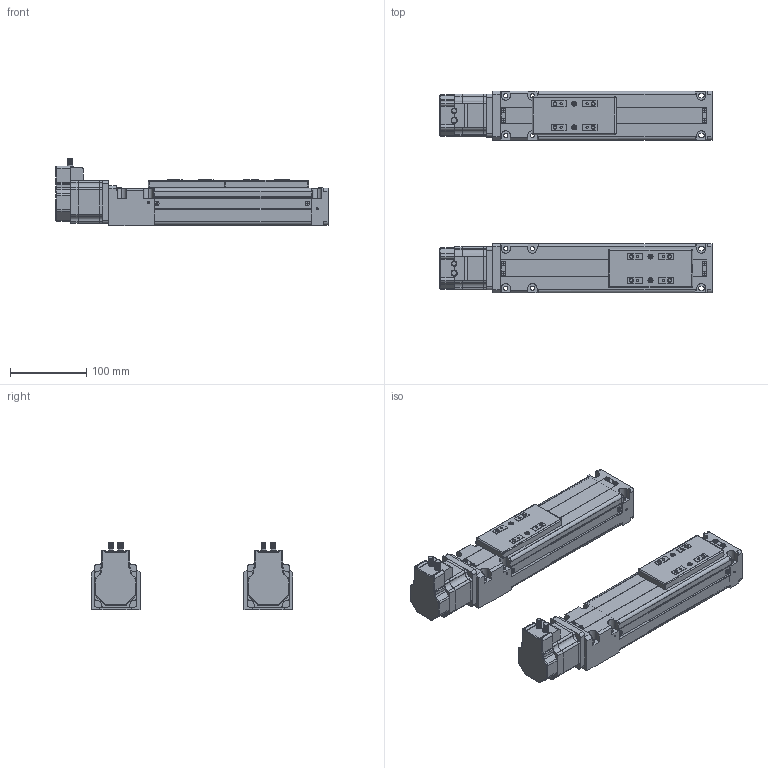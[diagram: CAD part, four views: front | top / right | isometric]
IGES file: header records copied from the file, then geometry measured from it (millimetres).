
Start section: IMSI TurboCAD v14.0
Global section: author: NULL; organization: NULL; date: 20151212.122950; units: millimetre
Bounding box: 356 x 264 x 87.99 mm (x, y, z)
Surface area: 431162.3 mm2 (no closed solid volume)
Topology: 0 solids, 0 shells, 2578 faces, 14274 edges, 14246 vertices
Faces by surface type: extrusion 1960, revolution 548, bspline 70
